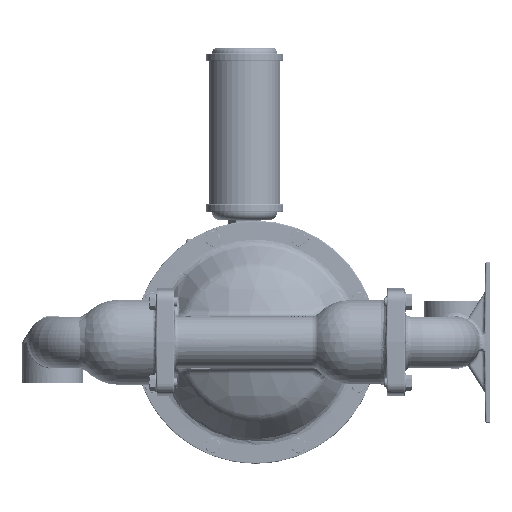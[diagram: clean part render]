
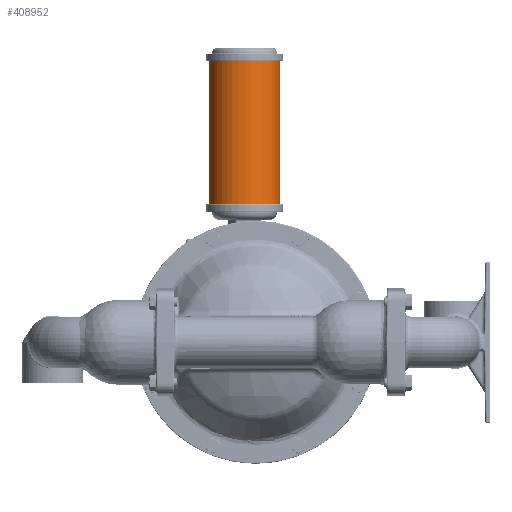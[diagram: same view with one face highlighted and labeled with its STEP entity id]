
A CAD part, left-side view. The second image highlights one B-rep face of the part: STEP entity #408952.
In plain terms, the highlighted cylindrical face has radius 61.722 mm (diameter 123.444 mm), a partial arc.
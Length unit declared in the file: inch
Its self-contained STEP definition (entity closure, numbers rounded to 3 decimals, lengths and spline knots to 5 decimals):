
#30292 = CIRCLE ( 'NONE', #591317, 2.43 ) ;
#33970 = CYLINDRICAL_SURFACE ( 'NONE', #278869, 2.43 ) ;
#39233 = DIRECTION ( 'NONE',  ( 0., 0., 1. ) ) ;
#68576 = DIRECTION ( 'NONE',  ( 0., 1., 0. ) ) ;
#146099 = ORIENTED_EDGE ( 'NONE', *, *, #283788, .T. ) ;
#187092 = DIRECTION ( 'NONE',  ( 0., 0., 1. ) ) ;
#188291 = ORIENTED_EDGE ( 'NONE', *, *, #309719, .F. ) ;
#231425 = DIRECTION ( 'NONE',  ( 0., 0., 1. ) ) ;
#237010 = EDGE_LOOP ( 'NONE', ( #485730, #146099, #188291, #283054 ) ) ;
#259021 = VERTEX_POINT ( 'NONE', #670687 ) ;
#274591 = DIRECTION ( 'NONE',  ( 0., 1., 0. ) ) ;
#278869 = AXIS2_PLACEMENT_3D ( 'NONE', #334446, #767310, #349814 ) ;
#283054 = ORIENTED_EDGE ( 'NONE', *, *, #341127, .F. ) ;
#283788 = EDGE_CURVE ( 'NONE', #259021, #512705, #694810, .T. ) ;
#309719 = EDGE_CURVE ( 'NONE', #747856, #512705, #30292, .T. ) ;
#329486 = CIRCLE ( 'NONE', #516033, 2.43 ) ;
#334446 = CARTESIAN_POINT ( 'NONE',  ( 0., 0.75, 20.6595 ) ) ;
#341127 = EDGE_CURVE ( 'NONE', #472359, #747856, #476030, .T. ) ;
#349814 = DIRECTION ( 'NONE',  ( 0., -1., 0. ) ) ;
#363709 = CARTESIAN_POINT ( 'NONE',  ( 0., -1.68, 19.172 ) ) ;
#408952 = ADVANCED_FACE ( 'NONE', ( #506156 ), #33970, .T. ) ;
#472359 = VERTEX_POINT ( 'NONE', #631737 ) ;
#476030 = LINE ( 'NONE', #721743, #754419 ) ;
#482257 = CARTESIAN_POINT ( 'NONE',  ( 0., 0.75, 19.172 ) ) ;
#485730 = ORIENTED_EDGE ( 'NONE', *, *, #709931, .T. ) ;
#506156 = FACE_OUTER_BOUND ( 'NONE', #237010, .T. ) ;
#512705 = VERTEX_POINT ( 'NONE', #363709 ) ;
#516033 = AXIS2_PLACEMENT_3D ( 'NONE', #637407, #231425, #274591 ) ;
#536940 = DIRECTION ( 'NONE',  ( 0., 0., 1. ) ) ;
#591317 = AXIS2_PLACEMENT_3D ( 'NONE', #482257, #536940, #68576 ) ;
#602054 = CARTESIAN_POINT ( 'NONE',  ( 0., 3.18, 19.172 ) ) ;
#631737 = CARTESIAN_POINT ( 'NONE',  ( 0., 3.18, 9.392 ) ) ;
#637407 = CARTESIAN_POINT ( 'NONE',  ( 0., 0.75, 9.392 ) ) ;
#670687 = CARTESIAN_POINT ( 'NONE',  ( 0., -1.68, 9.392 ) ) ;
#694810 = LINE ( 'NONE', #702481, #739488 ) ;
#702481 = CARTESIAN_POINT ( 'NONE',  ( 0., -1.68, 9.392 ) ) ;
#709931 = EDGE_CURVE ( 'NONE', #472359, #259021, #329486, .T. ) ;
#721743 = CARTESIAN_POINT ( 'NONE',  ( 0., 3.18, 9.392 ) ) ;
#739488 = VECTOR ( 'NONE', #39233, 39.37008 ) ;
#747856 = VERTEX_POINT ( 'NONE', #602054 ) ;
#754419 = VECTOR ( 'NONE', #187092, 39.37008 ) ;
#767310 = DIRECTION ( 'NONE',  ( 0., 0., -1. ) ) ;
